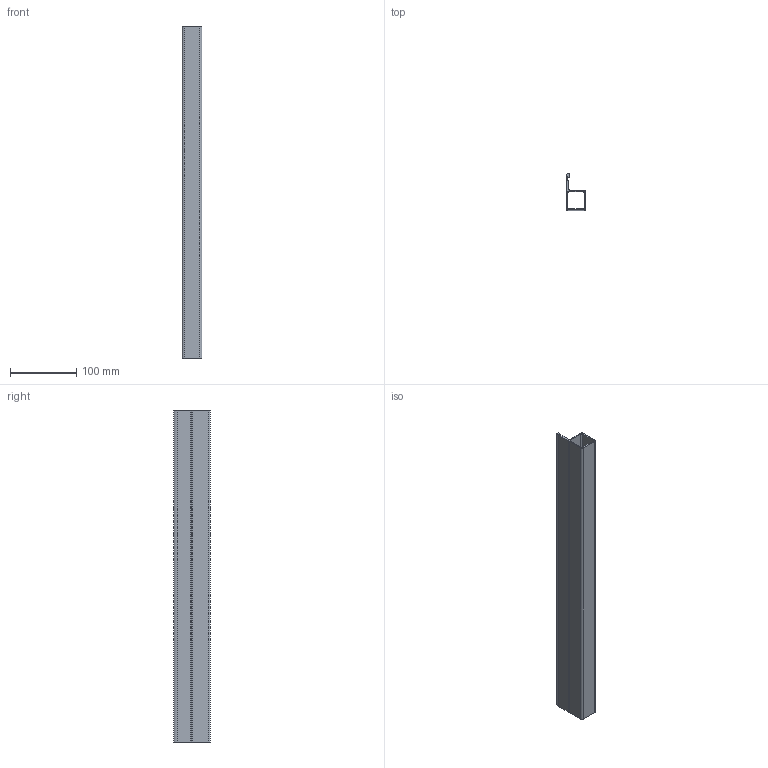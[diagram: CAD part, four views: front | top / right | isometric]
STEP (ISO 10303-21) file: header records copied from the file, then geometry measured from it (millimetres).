
FILE_DESCRIPTION (( 'STEP AP214' ), '1' );
FILE_NAME ('A40707.step', '2024-12-03T16:11:36', ( '' ), ( '' ), 'SwSTEP 2.0', 'SolidWorks 2023', '' );
FILE_SCHEMA (( 'AUTOMOTIVE_DESIGN' ));
Length unit declared in the file: millimetre
Products named in the file (1): A40707
Bounding box: 30 x 55 x 500 mm (x, y, z)
Volume: 154707.5 mm3; surface area: 136652.6 mm2
Topology: 1 solids, 1 shells, 33 faces, 93 edges, 62 vertices
Faces by surface type: plane 17, cylinder 16
Entity records: 1106 total; most frequent: DIRECTION 193, CARTESIAN_POINT 189, ORIENTED_EDGE 186, EDGE_CURVE 93, AXIS2_PLACEMENT_3D 66, VERTEX_POINT 62, VECTOR 61, LINE 61
